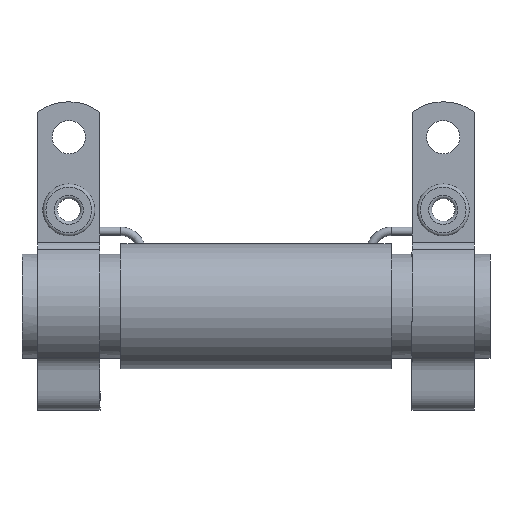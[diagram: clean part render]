
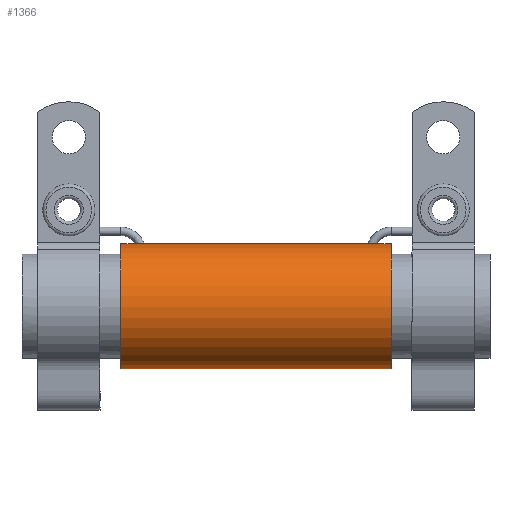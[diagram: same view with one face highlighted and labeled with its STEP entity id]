
A CAD part, left-side view. The second image highlights one B-rep face of the part: STEP entity #1366.
In plain terms, the highlighted cylindrical face has radius 6 mm (diameter 12 mm), a full revolution.
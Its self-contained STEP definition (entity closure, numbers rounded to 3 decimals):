
#147=B_SPLINE_CURVE_WITH_KNOTS($,3,(#2087,#2088,#2089,#2090,#2091,#2092,
#2093,#2094,#2095,#2096,#2097,#2098,#2099,#2100,#2101,#2102,#2103,#2104,
#2105,#2106,#2107,#2108,#2109,#2110,#2111,#2112,#2113,#2114,#2115,#2116,
#2117,#2118,#2119,#2120,#2121,#2122),.UNSPECIFIED.,.T.,.F.,(4,2,2,2,2,2,
2,2,2,2,2,2,2,2,2,2,2,4),(0.,0.015,0.03,0.046,
0.063,0.082,0.101,0.117,
0.131,0.144,0.158,0.175,
0.194,0.212,0.229,0.245,
0.254,0.264),.UNSPECIFIED.);
#148=B_SPLINE_CURVE_WITH_KNOTS($,3,(#2124,#2125,#2126,#2127,#2128,#2129,
#2130,#2131,#2132,#2133,#2134,#2135,#2136,#2137,#2138,#2139,#2140,#2141,
#2142,#2143,#2144,#2145,#2146,#2147,#2148,#2149,#2150,#2151,#2152,#2153,
#2154,#2155,#2156,#2157,#2158,#2159),.UNSPECIFIED.,.T.,.F.,(4,2,2,2,2,2,
2,2,2,2,2,2,2,2,2,2,2,4),(0.,0.015,0.03,0.046,
0.063,0.082,0.101,0.117,
0.131,0.144,0.158,0.175,0.194,
0.212,0.229,0.245,0.254,0.264),
 .UNSPECIFIED.);
#177=FACE_BOUND($,#372,.T.);
#178=FACE_BOUND($,#373,.T.);
#179=FACE_BOUND($,#374,.T.);
#180=FACE_BOUND($,#375,.T.);
#251=CYLINDRICAL_SURFACE($,#1468,6.);
#372=EDGE_LOOP($,(#918));
#373=EDGE_LOOP($,(#919));
#374=EDGE_LOOP($,(#920));
#375=EDGE_LOOP($,(#921));
#511=CIRCLE($,#1469,6.);
#512=CIRCLE($,#1470,6.);
#604=VERTEX_POINT($,#2086);
#605=VERTEX_POINT($,#2123);
#606=VERTEX_POINT($,#2160);
#607=VERTEX_POINT($,#2162);
#736=EDGE_CURVE($,#604,#604,#147,.T.);
#737=EDGE_CURVE($,#605,#605,#148,.T.);
#738=EDGE_CURVE($,#606,#606,#511,.T.);
#739=EDGE_CURVE($,#607,#607,#512,.T.);
#918=ORIENTED_EDGE($,*,*,#736,.T.);
#919=ORIENTED_EDGE($,*,*,#737,.T.);
#920=ORIENTED_EDGE($,*,*,#738,.T.);
#921=ORIENTED_EDGE($,*,*,#739,.F.);
#1366=ADVANCED_FACE($,(#177,#178,#179,#180),#251,.T.);
#1468=AXIS2_PLACEMENT_3D($,#2085,#1662,#1663);
#1469=AXIS2_PLACEMENT_3D($,#2161,#1664,#1665);
#1470=AXIS2_PLACEMENT_3D($,#2163,#1666,#1667);
#1662=DIRECTION('center_axis',(0.,1.,0.));
#1663=DIRECTION('ref_axis',(0.757,0.,0.653));
#1664=DIRECTION('center_axis',(0.,-1.,0.));
#1665=DIRECTION('ref_axis',(0.757,0.,0.653));
#1666=DIRECTION('center_axis',(0.,-1.,0.));
#1667=DIRECTION('ref_axis',(0.757,0.,0.653));
#2085=CARTESIAN_POINT('Origin',(21.645,56.077,19.693));
#2086=CARTESIAN_POINT('',(21.645,58.34,25.693));
#2087=CARTESIAN_POINT('Ctrl Pts',(21.645,58.34,25.693));
#2088=CARTESIAN_POINT('Ctrl Pts',(21.695,58.34,25.693));
#2089=CARTESIAN_POINT('Ctrl Pts',(21.745,58.33,25.692));
#2090=CARTESIAN_POINT('Ctrl Pts',(21.839,58.292,25.69));
#2091=CARTESIAN_POINT('Ctrl Pts',(21.882,58.263,25.688));
#2092=CARTESIAN_POINT('Ctrl Pts',(21.956,58.191,25.685));
#2093=CARTESIAN_POINT('Ctrl Pts',(21.986,58.146,25.683));
#2094=CARTESIAN_POINT('Ctrl Pts',(22.031,58.046,25.68));
#2095=CARTESIAN_POINT('Ctrl Pts',(22.043,57.99,25.679));
#2096=CARTESIAN_POINT('Ctrl Pts',(22.047,57.871,25.679));
#2097=CARTESIAN_POINT('Ctrl Pts',(22.037,57.81,25.68));
#2098=CARTESIAN_POINT('Ctrl Pts',(21.995,57.692,25.683));
#2099=CARTESIAN_POINT('Ctrl Pts',(21.962,57.637,25.684));
#2100=CARTESIAN_POINT('Ctrl Pts',(21.883,57.551,25.688));
#2101=CARTESIAN_POINT('Ctrl Pts',(21.84,57.518,25.69));
#2102=CARTESIAN_POINT('Ctrl Pts',(21.749,57.476,25.692));
#2103=CARTESIAN_POINT('Ctrl Pts',(21.704,57.465,25.693));
#2104=CARTESIAN_POINT('Ctrl Pts',(21.614,57.461,25.693));
#2105=CARTESIAN_POINT('Ctrl Pts',(21.57,57.468,25.692));
#2106=CARTESIAN_POINT('Ctrl Pts',(21.484,57.499,25.691));
#2107=CARTESIAN_POINT('Ctrl Pts',(21.443,57.524,25.689));
#2108=CARTESIAN_POINT('Ctrl Pts',(21.365,57.592,25.686));
#2109=CARTESIAN_POINT('Ctrl Pts',(21.33,57.637,25.684));
#2110=CARTESIAN_POINT('Ctrl Pts',(21.273,57.742,25.681));
#2111=CARTESIAN_POINT('Ctrl Pts',(21.255,57.803,25.68));
#2112=CARTESIAN_POINT('Ctrl Pts',(21.241,57.927,25.679));
#2113=CARTESIAN_POINT('Ctrl Pts',(21.247,57.988,25.679));
#2114=CARTESIAN_POINT('Ctrl Pts',(21.28,58.101,25.682));
#2115=CARTESIAN_POINT('Ctrl Pts',(21.307,58.152,25.683));
#2116=CARTESIAN_POINT('Ctrl Pts',(21.376,58.236,25.687));
#2117=CARTESIAN_POINT('Ctrl Pts',(21.417,58.27,25.689));
#2118=CARTESIAN_POINT('Ctrl Pts',(21.492,58.31,25.691));
#2119=CARTESIAN_POINT('Ctrl Pts',(21.521,58.321,25.691));
#2120=CARTESIAN_POINT('Ctrl Pts',(21.583,58.336,25.692));
#2121=CARTESIAN_POINT('Ctrl Pts',(21.614,58.34,25.693));
#2122=CARTESIAN_POINT('Ctrl Pts',(21.645,58.34,25.693));
#2123=CARTESIAN_POINT('',(21.645,79.814,25.693));
#2124=CARTESIAN_POINT('Ctrl Pts',(21.645,79.814,25.693));
#2125=CARTESIAN_POINT('Ctrl Pts',(21.595,79.814,25.693));
#2126=CARTESIAN_POINT('Ctrl Pts',(21.545,79.824,25.692));
#2127=CARTESIAN_POINT('Ctrl Pts',(21.452,79.863,25.69));
#2128=CARTESIAN_POINT('Ctrl Pts',(21.409,79.891,25.688));
#2129=CARTESIAN_POINT('Ctrl Pts',(21.334,79.964,25.685));
#2130=CARTESIAN_POINT('Ctrl Pts',(21.304,80.008,25.683));
#2131=CARTESIAN_POINT('Ctrl Pts',(21.26,80.109,25.68));
#2132=CARTESIAN_POINT('Ctrl Pts',(21.248,80.165,25.679));
#2133=CARTESIAN_POINT('Ctrl Pts',(21.243,80.283,25.679));
#2134=CARTESIAN_POINT('Ctrl Pts',(21.253,80.345,25.68));
#2135=CARTESIAN_POINT('Ctrl Pts',(21.295,80.462,25.683));
#2136=CARTESIAN_POINT('Ctrl Pts',(21.328,80.518,25.684));
#2137=CARTESIAN_POINT('Ctrl Pts',(21.408,80.604,25.688));
#2138=CARTESIAN_POINT('Ctrl Pts',(21.451,80.636,25.69));
#2139=CARTESIAN_POINT('Ctrl Pts',(21.542,80.678,25.692));
#2140=CARTESIAN_POINT('Ctrl Pts',(21.586,80.69,25.693));
#2141=CARTESIAN_POINT('Ctrl Pts',(21.677,80.693,25.693));
#2142=CARTESIAN_POINT('Ctrl Pts',(21.72,80.686,25.692));
#2143=CARTESIAN_POINT('Ctrl Pts',(21.806,80.655,25.691));
#2144=CARTESIAN_POINT('Ctrl Pts',(21.847,80.63,25.689));
#2145=CARTESIAN_POINT('Ctrl Pts',(21.926,80.563,25.686));
#2146=CARTESIAN_POINT('Ctrl Pts',(21.961,80.518,25.684));
#2147=CARTESIAN_POINT('Ctrl Pts',(22.017,80.413,25.681));
#2148=CARTESIAN_POINT('Ctrl Pts',(22.036,80.351,25.68));
#2149=CARTESIAN_POINT('Ctrl Pts',(22.049,80.228,25.679));
#2150=CARTESIAN_POINT('Ctrl Pts',(22.044,80.166,25.679));
#2151=CARTESIAN_POINT('Ctrl Pts',(22.01,80.053,25.682));
#2152=CARTESIAN_POINT('Ctrl Pts',(21.984,80.002,25.683));
#2153=CARTESIAN_POINT('Ctrl Pts',(21.914,79.918,25.687));
#2154=CARTESIAN_POINT('Ctrl Pts',(21.873,79.884,25.689));
#2155=CARTESIAN_POINT('Ctrl Pts',(21.799,79.845,25.691));
#2156=CARTESIAN_POINT('Ctrl Pts',(21.769,79.833,25.691));
#2157=CARTESIAN_POINT('Ctrl Pts',(21.708,79.818,25.692));
#2158=CARTESIAN_POINT('Ctrl Pts',(21.677,79.814,25.693));
#2159=CARTESIAN_POINT('Ctrl Pts',(21.645,79.814,25.693));
#2160=CARTESIAN_POINT('',(17.103,82.077,15.772));
#2161=CARTESIAN_POINT('Origin',(21.645,82.077,19.693));
#2162=CARTESIAN_POINT('',(17.103,56.077,15.772));
#2163=CARTESIAN_POINT('Origin',(21.645,56.077,19.693));
